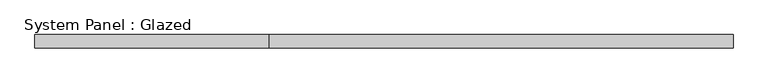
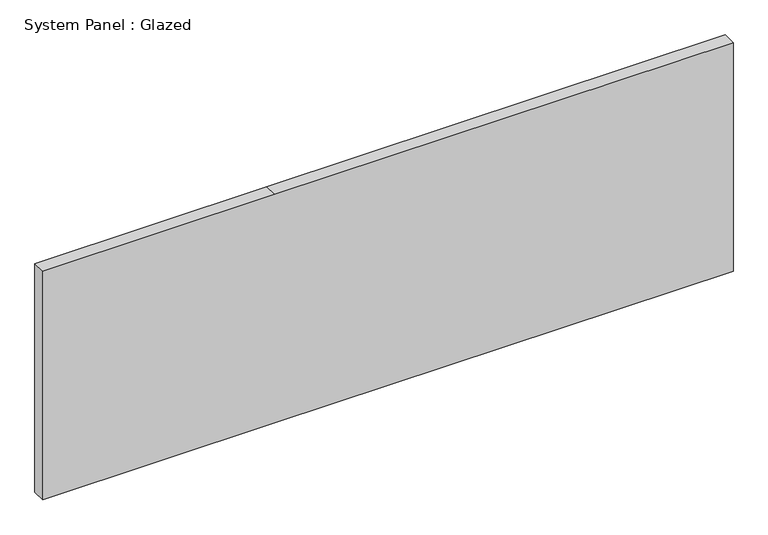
"""IFC4 building model written with IfcOpenShell, lengths in millimetres: plate geometry, System Panel : Glazed."""

from ifc_helpers import new_model, si_unit, frame, origin, place, context, project, spatial, polyline, outline, extrude, source, transform, mapped, element, save


def system_panel_glazed_06afaa24(model_context):
    return source(origin(), model_context, "Body", "SweptSolid", [
        extrude(outline(polyline([(0.0, -643.17875), (0.0, -210.97875), (0.0, 643.17875), (450.0, 643.17875), (450.0, -210.97875), (450.0, -643.17875), (0.0, -643.17875)])), frame((0.0, 24.5, 0.0), z_axis=(0.0, 1.0, 0.0), x_axis=(0.0, 0.0, 1.0)), (0.0, 0.0, 1.0), 25.0),
    ])


if __name__ == "__main__":
    model = new_model("IFC4")
    model_context = context("Model", 3, world=origin())
    ifc_project = project(units=[si_unit("LENGTHUNIT", "METRE", prefix="MILLI")], contexts=[model_context])
    site = spatial("IfcSite", under=ifc_project)
    building = spatial("IfcBuilding", under=site)
    placement = place(None, origin())
    system_panel_glazed_shape = system_panel_glazed_06afaa24(model_context)
    element("IfcPlate", 1, ObjectType="System Panel : Glazed", at=placement, inside=building, context=model_context, shape_type="MappedRepresentation", body=[
        mapped(system_panel_glazed_shape, transform((0.0, 0.0, 0.0), x_axis=(1.0, 0.0, 0.0), y_axis=(0.0, 1.0, 0.0), z_axis=(0.0, 0.0, 1.0))),
    ])
    save(model, "model.ifc")
